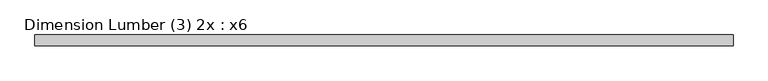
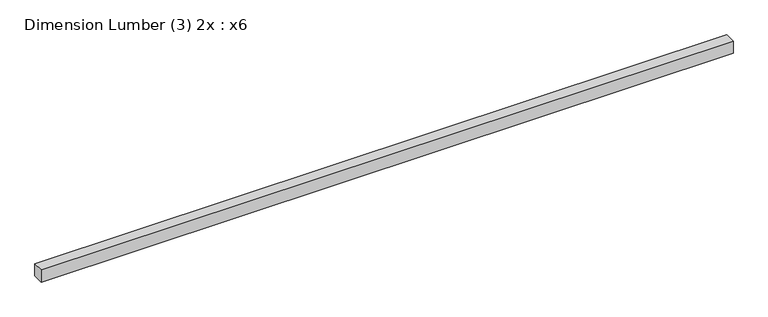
"""IFC4 building model written with IfcOpenShell, lengths in millimetres: beam geometry, Dimension Lumber (3) 2x : x6."""

from ifc_helpers import new_model, si_unit, frame, origin, place, context, project, spatial, polyline, outline, extrude, source, transform, mapped, element, save


def dimension_lumber_3_2x_x6_e14e15ca(model_context):
    return source(origin(), model_context, "Body", "SweptSolid", [
        extrude(outline(polyline([(3698.875, 57.15), (3698.875, -57.15), (-3697.605, -57.15), (-3697.605, 57.15), (3698.875, 57.15)])), frame((0.0, 0.0, -69.85), z_axis=(0.0, 0.0, 1.0), x_axis=(1.0, 0.0, 0.0)), (0.0, 0.0, 1.0), 139.7),
    ])


if __name__ == "__main__":
    model = new_model("IFC4")
    model_context = context("Model", 3, world=origin())
    ifc_project = project(units=[si_unit("LENGTHUNIT", "METRE", prefix="MILLI")], contexts=[model_context])
    site = spatial("IfcSite", under=ifc_project)
    building = spatial("IfcBuilding", under=site)
    placement = place(None, origin())
    dimension_lumber_3_2x_x6_shape = dimension_lumber_3_2x_x6_e14e15ca(model_context)
    element("IfcBeam", 1, ObjectType="Dimension Lumber (3) 2x : x6", at=placement, inside=building, context=model_context, shape_type="MappedRepresentation", body=[
        mapped(dimension_lumber_3_2x_x6_shape, transform((0.0, 0.0, 0.0), x_axis=(1.0, 0.0, 0.0), y_axis=(0.0, 1.0, 0.0), z_axis=(0.0, 0.0, 1.0))),
    ])
    save(model, "model.ifc")
